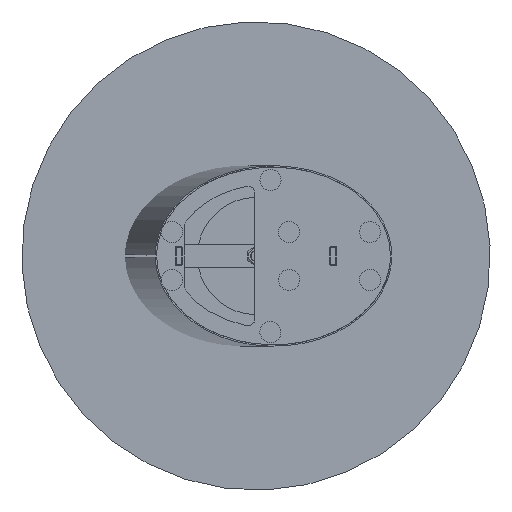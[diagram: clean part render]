
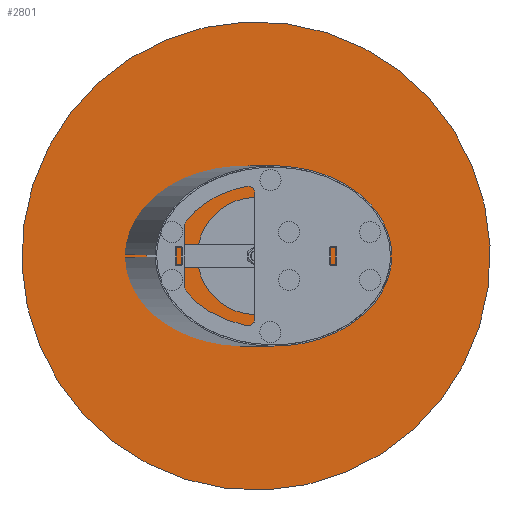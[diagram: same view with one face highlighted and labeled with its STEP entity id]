
A CAD part, front view. The second image highlights one B-rep face of the part: STEP entity #2801.
In plain terms, the highlighted planar face has unit normal (0, -1, 0).
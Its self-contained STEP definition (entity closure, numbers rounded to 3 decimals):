
#296 = DIRECTION ( 'NONE',  ( 0., 0., -1. ) ) ;
#980 = EDGE_CURVE ( 'NONE', #2974, #3732, #8384, .T. ) ;
#1488 = AXIS2_PLACEMENT_3D ( 'NONE', #5130, #2548, #5294 ) ;
#2526 = DIRECTION ( 'NONE',  ( 0., -1., 0. ) ) ;
#2548 = DIRECTION ( 'NONE',  ( 0., -1., 0. ) ) ;
#2801 = ADVANCED_FACE ( 'NONE', ( #7942 ), #3845, .T. ) ;
#2974 = VERTEX_POINT ( 'NONE', #7208 ) ;
#3519 = EDGE_LOOP ( 'NONE', ( #5939, #5683 ) ) ;
#3732 = VERTEX_POINT ( 'NONE', #6585 ) ;
#3845 = PLANE ( 'NONE',  #1488 ) ;
#3900 = DIRECTION ( 'NONE',  ( 0., 0., -1. ) ) ;
#3946 = CARTESIAN_POINT ( 'NONE',  ( 0., 0., 0. ) ) ;
#4501 = AXIS2_PLACEMENT_3D ( 'NONE', #6217, #7603, #296 ) ;
#5130 = CARTESIAN_POINT ( 'NONE',  ( 0., 0., 0. ) ) ;
#5294 = DIRECTION ( 'NONE',  ( 0., 0., -1. ) ) ;
#5683 = ORIENTED_EDGE ( 'NONE', *, *, #7655, .T. ) ;
#5939 = ORIENTED_EDGE ( 'NONE', *, *, #980, .T. ) ;
#6217 = CARTESIAN_POINT ( 'NONE',  ( 0., 0., 0. ) ) ;
#6568 = CIRCLE ( 'NONE', #4501, 500. ) ;
#6585 = CARTESIAN_POINT ( 'NONE',  ( 0., 0., 500. ) ) ;
#6735 = AXIS2_PLACEMENT_3D ( 'NONE', #3946, #2526, #3900 ) ;
#7208 = CARTESIAN_POINT ( 'NONE',  ( 0., 0., -500. ) ) ;
#7603 = DIRECTION ( 'NONE',  ( 0., -1., 0. ) ) ;
#7655 = EDGE_CURVE ( 'NONE', #3732, #2974, #6568, .T. ) ;
#7942 = FACE_OUTER_BOUND ( 'NONE', #3519, .T. ) ;
#8384 = CIRCLE ( 'NONE', #6735, 500. ) ;
